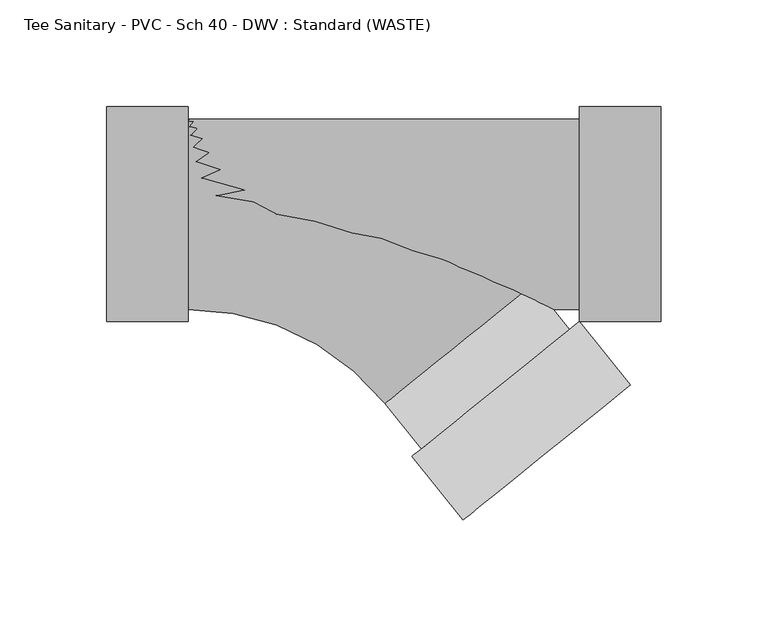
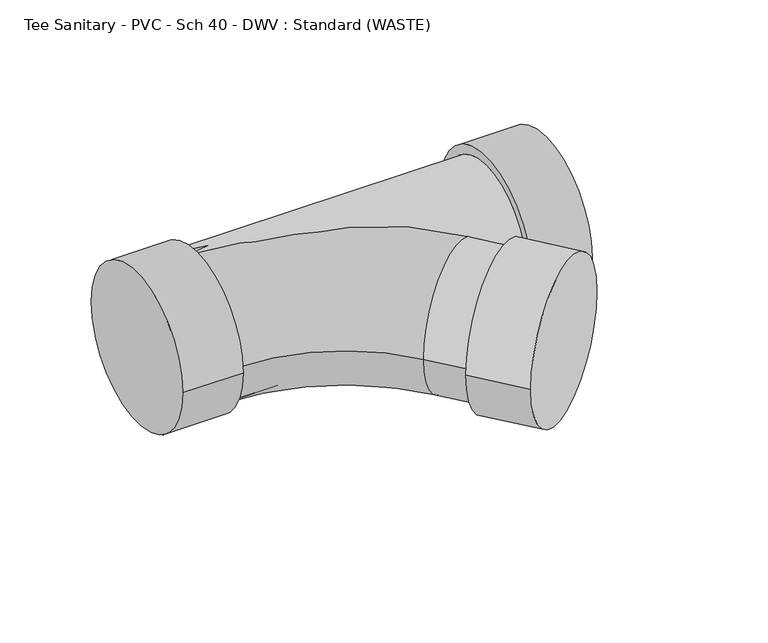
"""IFC4 building model written with IfcOpenShell, lengths in millimetres: pipe fitting geometry, Tee Sanitary - PVC - Sch 40 - DWV : Standard (WASTE)."""

from ifc_helpers import new_model, si_unit, point, frame, origin, place, context, project, spatial, circle_curve, ellipse_curve, trimmed, source, transform, mapped, element, save
from ifc_brep_helpers import plane_surface, cylinder_surface, revolved_surface, advanced_brep


def tee_sanitary_pvc_sch_40_dwv_standard_waste_cb718fee(model_context):
    return source(origin(), model_context, "Body", "AdvancedBrep", [
        advanced_brep(
        [(-77.8002, -44.45, 0.0), (-77.8002, 44.45, 0.0), (14.2132337, -88.4683989, 0.0), (83.4302822, -32.6812123, 0.0), (128.9830945, -79.9310494, 0.0), (50.7085008, -143.0183879, 0.0), (105.0743003, -50.2666, 0.0), (26.7997065, -113.3539385, 0.0), (100.5455277, -53.9166759, 0.0), (31.3284792, -109.7038626, 0.0)],
        [
            (0, 1, circle_curve(frame((-77.8002, 0.0, 0.0), z_axis=(-1.0, 0.0, 0.0), x_axis=(0.0, 1.0, 0.0)), 44.45)),
            (1, 0, circle_curve(frame((-77.8002, 0.0, 0.0), z_axis=(-1.0, 0.0, 0.0), x_axis=(0.0, 1.0, 0.0)), 44.45)),
            (0, 2, circle_curve(frame((-77.8002, -162.6288942, 0.0), z_axis=(0.0, 0.0, -1.0), x_axis=(0.0, 1.0, 0.0)), 118.1788942)),
            (2, 3, circle_curve(frame((48.8217579, -60.5748056, 0.0), z_axis=(-0.627527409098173, 0.778594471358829, 0.0), x_axis=(0.778594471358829, 0.627527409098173, 0.0)), 44.45)),
            (3, 1, circle_curve(frame((-77.8002, -162.6288942, 0.0), z_axis=(0.0, 0.0, 1.0), x_axis=(0.0, 1.0, 0.0)), 207.0788942)),
            (3, 2, circle_curve(frame((48.8217579, -60.5748056, 0.0), z_axis=(-0.627527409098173, 0.778594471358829, 0.0), x_axis=(0.778594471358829, 0.627527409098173, 0.0)), 44.45)),
            (4, 5, circle_curve(frame((89.8457977, -111.4747186, 0.0), z_axis=(0.6275274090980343, -0.7785944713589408, 0.0), x_axis=(-0.7785944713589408, -0.6275274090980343, 0.0)), 50.2666)),
            (5, 4, circle_curve(frame((89.8457977, -111.4747186, 0.0), z_axis=(0.6275274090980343, -0.7785944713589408, 0.0), x_axis=(-0.7785944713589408, -0.6275274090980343, 0.0)), 50.2666)),
            (6, 7, circle_curve(frame((65.9370034, -81.8102693, 0.0), z_axis=(-0.6275274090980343, 0.7785944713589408, 0.0), x_axis=(-0.7785944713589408, -0.6275274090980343, 0.0)), 50.2666)),
            (7, 6, circle_curve(frame((65.9370034, -81.8102693, 0.0), z_axis=(-0.6275274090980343, 0.7785944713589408, 0.0), x_axis=(-0.7785944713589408, -0.6275274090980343, 0.0)), 50.2666)),
            (8, 9, circle_curve(frame((65.9370034, -81.8102693, 0.0), z_axis=(0.6275274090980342, -0.7785944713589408, 0.0), x_axis=(-0.7785944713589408, -0.6275274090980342, 0.0)), 44.45)),
            (9, 8, circle_curve(frame((65.9370034, -81.8102693, 0.0), z_axis=(0.6275274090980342, -0.7785944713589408, 0.0), x_axis=(-0.7785944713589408, -0.6275274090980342, 0.0)), 44.45)),
            (4, 6),
            (7, 5),
            (2, 9),
            (8, 3),
        ],
        [
            plane_surface(frame((-77.8002, 0.0, 0.0), z_axis=(-1.0, 0.0, 0.0), x_axis=(0.0, 0.0, 1.0))),
            revolved_surface(trimmed(ellipse_curve(frame((-77.8002, 0.0, 0.0), z_axis=(-1.0, 0.0, 0.0), x_axis=(0.0, 1.0, 0.0)), 44.45, 44.45), [point((-77.8002, -44.45, 0.0))], [point((-77.8002, 44.45, 0.0))], True, "CARTESIAN"), (-77.8002, -162.6288942, 0.0), (0.0, 0.0, -1.0)),
            revolved_surface(trimmed(ellipse_curve(frame((-77.8002, 0.0, 0.0), z_axis=(-1.0, 0.0, 0.0), x_axis=(0.0, 1.0, 0.0)), 44.45, 44.45), [point((-77.8002, 44.45, 0.0))], [point((-77.8002, -44.45, 0.0))], True, "CARTESIAN"), (-77.8002, -162.6288942, 0.0), (0.0, 0.0, -1.0)),
            plane_surface(frame((89.8457977, -111.4747186, 0.0), z_axis=(0.6275274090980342, -0.7785944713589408, 0.0), x_axis=(0.0, 0.0, 1.0))),
            plane_surface(frame((65.9370034, -81.8102693, 0.0), z_axis=(-0.6275274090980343, 0.7785944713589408, 0.0), x_axis=(0.0, 0.0, 1.0))),
            cylinder_surface(frame((89.8457977, -111.4747186, 0.0), z_axis=(0.6275274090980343, -0.7785944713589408, 0.0), x_axis=(-0.7785944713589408, -0.6275274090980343, 0.0)), 50.2666),
            cylinder_surface(frame((89.8457977, -111.4747186, 0.0), z_axis=(0.6275274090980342, -0.7785944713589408, 0.0), x_axis=(-0.7785944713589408, -0.6275274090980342, 0.0)), 44.45),
        ],
        [
            (0, [[1, 2]]),
            (1, [[-1, 3, 4, 5]]),
            (2, [[-2, -5, 6, -3]]),
            (3, [[7, 8]]),
            (4, [[9, 10], [11, 12]]),
            (5, [[-7, 13, -10, 14]]),
            (5, [[-8, -14, -9, -13]]),
            (6, [[-4, 15, -11, 16]]),
            (6, [[-6, -16, -12, -15]]),
        ],
    ),
        advanced_brep(
        [(128.9830945, -79.9310494, 0.0), (50.7085008, -143.0183879, 0.0), (-77.8002, -44.45, 0.0), (-77.8002, 44.45, 0.0), (14.2132337, -88.4683989, 0.0), (83.4302822, -32.6812123, 0.0), (105.0743003, -50.2666, 0.0), (26.7997065, -113.3539385, 0.0), (100.5455277, -53.9166759, 0.0), (31.3284792, -109.7038626, 0.0)],
        [
            (0, 1, circle_curve(frame((89.8457977, -111.4747186, 0.0), z_axis=(0.627527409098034, -0.778594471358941, 0.0), x_axis=(-0.778594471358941, -0.627527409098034, 0.0)), 50.2666)),
            (1, 0, circle_curve(frame((89.8457977, -111.4747186, 0.0), z_axis=(0.627527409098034, -0.778594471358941, 0.0), x_axis=(-0.778594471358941, -0.627527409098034, 0.0)), 50.2666)),
            (2, 3, circle_curve(frame((-77.8002, 0.0, 0.0), z_axis=(-1.0, 0.0, 0.0), x_axis=(0.0, 1.0, 0.0)), 44.45)),
            (3, 2, circle_curve(frame((-77.8002, 0.0, 0.0), z_axis=(-1.0, 0.0, 0.0), x_axis=(0.0, 1.0, 0.0)), 44.45)),
            (2, 4, circle_curve(frame((-77.8002, -162.6288942, 0.0), z_axis=(0.0, 0.0, -1.0), x_axis=(0.0, 1.0, 0.0)), 118.1788942)),
            (4, 5, circle_curve(frame((48.8217579, -60.5748056, 0.0), z_axis=(-0.627527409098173, 0.778594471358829, 0.0), x_axis=(0.778594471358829, 0.627527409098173, 0.0)), 44.45)),
            (5, 3, circle_curve(frame((-77.8002, -162.6288942, 0.0), z_axis=(0.0, 0.0, 1.0), x_axis=(0.0, 1.0, 0.0)), 207.0788942)),
            (5, 4, circle_curve(frame((48.8217579, -60.5748056, 0.0), z_axis=(-0.627527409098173, 0.778594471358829, 0.0), x_axis=(0.778594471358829, 0.627527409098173, 0.0)), 44.45)),
            (6, 7, circle_curve(frame((65.9370034, -81.8102693, 0.0), z_axis=(-0.627527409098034, 0.778594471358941, 0.0), x_axis=(-0.778594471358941, -0.627527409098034, 0.0)), 50.2666)),
            (7, 6, circle_curve(frame((65.9370034, -81.8102693, 0.0), z_axis=(-0.627527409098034, 0.778594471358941, 0.0), x_axis=(-0.778594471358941, -0.627527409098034, 0.0)), 50.2666)),
            (8, 9, circle_curve(frame((65.9370034, -81.8102693, 0.0), z_axis=(0.6275274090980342, -0.7785944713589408, 0.0), x_axis=(-0.7785944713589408, -0.6275274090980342, 0.0)), 44.45)),
            (9, 8, circle_curve(frame((65.9370034, -81.8102693, 0.0), z_axis=(0.6275274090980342, -0.7785944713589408, 0.0), x_axis=(-0.7785944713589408, -0.6275274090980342, 0.0)), 44.45)),
            (0, 6),
            (7, 1),
            (4, 9),
            (8, 5),
        ],
        [
            plane_surface(frame((89.8457977, -111.4747186, 0.0), z_axis=(0.6275274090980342, -0.7785944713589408, 0.0), x_axis=(0.0, 0.0, 1.0))),
            plane_surface(frame((-77.8002, 0.0, 0.0), z_axis=(-1.0, 0.0, 0.0), x_axis=(0.0, 0.0, 1.0))),
            revolved_surface(trimmed(ellipse_curve(frame((-77.8002, 0.0, 0.0), z_axis=(-1.0, 0.0, 0.0), x_axis=(0.0, 1.0, 0.0)), 44.45, 44.45), [point((-77.8002, -44.45, 0.0))], [point((-77.8002, 44.45, 0.0))], True, "CARTESIAN"), (-77.8002, -162.6288942, 0.0), (0.0, 0.0, -1.0)),
            revolved_surface(trimmed(ellipse_curve(frame((-77.8002, 0.0, 0.0), z_axis=(-1.0, 0.0, 0.0), x_axis=(0.0, 1.0, 0.0)), 44.45, 44.45), [point((-77.8002, 44.45, 0.0))], [point((-77.8002, -44.45, 0.0))], True, "CARTESIAN"), (-77.8002, -162.6288942, 0.0), (0.0, 0.0, -1.0)),
            plane_surface(frame((65.9370034, -81.8102693, 0.0), z_axis=(-0.627527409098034, 0.778594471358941, 0.0), x_axis=(0.0, 0.0, 1.0))),
            cylinder_surface(frame((89.8457977, -111.4747186, 0.0), z_axis=(0.627527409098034, -0.778594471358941, 0.0), x_axis=(-0.778594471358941, -0.627527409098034, 0.0)), 50.2666),
            cylinder_surface(frame((89.8457977, -111.4747186, 0.0), z_axis=(0.6275274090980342, -0.7785944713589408, 0.0), x_axis=(-0.7785944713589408, -0.6275274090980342, 0.0)), 44.45),
        ],
        [
            (0, [[1, 2]]),
            (1, [[3, 4]]),
            (2, [[-3, 5, 6, 7]]),
            (3, [[-4, -7, 8, -5]]),
            (4, [[9, 10], [11, 12]]),
            (5, [[-1, 13, -10, 14]]),
            (5, [[-2, -14, -9, -13]]),
            (6, [[-6, 15, -11, 16]]),
            (6, [[-8, -16, -12, -15]]),
        ],
    ),
        advanced_brep(
        [(-77.8002, -44.45, 0.0), (105.0743003, -44.45, 0.0), (105.0743003, 44.45, 0.0), (-77.8002, 44.45, 0.0), (105.0743003, -50.2666, 0.0), (105.0743003, 50.2666, 0.0), (143.1743003, -50.2666, 0.0), (143.1743003, 50.2666, 0.0), (-115.9002, -50.2666, 0.0), (-115.9002, 50.2666, 0.0), (-77.8002, -50.2666, 0.0), (-77.8002, 50.2666, 0.0)],
        [
            (0, 1),
            (1, 2, circle_curve(frame((105.0743003, 0.0, 0.0), z_axis=(-1.0, 0.0, 0.0), x_axis=(0.0, 1.0, 0.0)), 44.45)),
            (2, 3),
            (3, 0, circle_curve(frame((-77.8002, 0.0, 0.0), z_axis=(1.0, 0.0, 0.0), x_axis=(0.0, 1.0, 0.0)), 44.45)),
            (0, 3, circle_curve(frame((-77.8002, 0.0, 0.0), z_axis=(1.0, 0.0, 0.0), x_axis=(0.0, 1.0, 0.0)), 44.45)),
            (2, 1, circle_curve(frame((105.0743003, 0.0, 0.0), z_axis=(-1.0, 0.0, 0.0), x_axis=(0.0, 1.0, 0.0)), 44.45)),
            (4, 5, circle_curve(frame((105.0743003, 0.0, 0.0), z_axis=(-1.0, 0.0, 0.0), x_axis=(0.0, 1.0, 0.0)), 50.2666)),
            (5, 4, circle_curve(frame((105.0743003, 0.0, 0.0), z_axis=(-1.0, 0.0, 0.0), x_axis=(0.0, 1.0, 0.0)), 50.2666)),
            (6, 7, circle_curve(frame((143.1743003, 0.0, 0.0), z_axis=(1.0, 0.0, 0.0), x_axis=(0.0, 1.0, 0.0)), 50.2666)),
            (7, 6, circle_curve(frame((143.1743003, 0.0, 0.0), z_axis=(1.0, 0.0, 0.0), x_axis=(0.0, 1.0, 0.0)), 50.2666)),
            (4, 6),
            (7, 5),
            (8, 9, circle_curve(frame((-115.9002, 0.0, 0.0), z_axis=(-1.0, 0.0, 0.0), x_axis=(0.0, 1.0, 0.0)), 50.2666)),
            (9, 8, circle_curve(frame((-115.9002, 0.0, 0.0), z_axis=(-1.0, 0.0, 0.0), x_axis=(0.0, 1.0, 0.0)), 50.2666)),
            (10, 11, circle_curve(frame((-77.8002, 0.0, 0.0), z_axis=(1.0, 0.0, 0.0), x_axis=(0.0, 1.0, 0.0)), 50.2666)),
            (11, 10, circle_curve(frame((-77.8002, 0.0, 0.0), z_axis=(1.0, 0.0, 0.0), x_axis=(0.0, 1.0, 0.0)), 50.2666)),
            (8, 10),
            (11, 9),
        ],
        [
            cylinder_surface(frame((-77.8002, 0.0, 0.0), z_axis=(-1.0, 0.0, 0.0), x_axis=(0.0, 1.0, 0.0)), 44.45),
            plane_surface(frame((105.0743003, 0.0, 0.0), z_axis=(-1.0, 0.0, 0.0), x_axis=(0.0, 0.0, 1.0))),
            plane_surface(frame((143.1743003, 0.0, 0.0), z_axis=(1.0, 0.0, 0.0), x_axis=(0.0, 0.0, 1.0))),
            cylinder_surface(frame((105.0743003, 0.0, 0.0), z_axis=(-1.0, 0.0, 0.0), x_axis=(0.0, 1.0, 0.0)), 50.2666),
            plane_surface(frame((-115.9002, 0.0, 0.0), z_axis=(-1.0, 0.0, 0.0), x_axis=(0.0, 0.0, 1.0))),
            plane_surface(frame((-77.8002, 0.0, 0.0), z_axis=(1.0, 0.0, 0.0), x_axis=(0.0, 0.0, 1.0))),
            cylinder_surface(frame((-115.9002, 0.0, 0.0), z_axis=(-1.0, 0.0, 0.0), x_axis=(0.0, 1.0, 0.0)), 50.2666),
        ],
        [
            (0, [[1, 2, 3, 4]]),
            (0, [[-1, 5, -3, 6]]),
            (1, [[7, 8], [-2, -6]]),
            (2, [[9, 10]]),
            (3, [[-7, 11, -10, 12]]),
            (3, [[-8, -12, -9, -11]]),
            (4, [[13, 14]]),
            (5, [[15, 16], [-4, -5]]),
            (6, [[-13, 17, -16, 18]]),
            (6, [[-14, -18, -15, -17]]),
        ],
    ),
        advanced_brep(
        [(-115.9002, -50.2666, 0.0), (-115.9002, 50.2666, 0.0), (-77.8002, -50.2666, 0.0), (-77.8002, 50.2666, 0.0), (-77.8002, -44.45, 0.0), (-77.8002, 44.45, 0.0), (105.0743003, -44.45, 0.0), (105.0743003, 44.45, 0.0), (143.1743003, 50.2666, 0.0), (143.1743003, -50.2666, 0.0), (105.0743003, 50.2666, 0.0), (105.0743003, -50.2666, 0.0)],
        [
            (0, 1, circle_curve(frame((-115.9002, 0.0, 0.0), z_axis=(-1.0, 0.0, 0.0), x_axis=(0.0, 1.0, 0.0)), 50.2666)),
            (1, 0, circle_curve(frame((-115.9002, 0.0, 0.0), z_axis=(-1.0, 0.0, 0.0), x_axis=(0.0, 1.0, 0.0)), 50.2666)),
            (2, 3, circle_curve(frame((-77.8002, 0.0, 0.0), z_axis=(1.0, 0.0, 0.0), x_axis=(0.0, 1.0, 0.0)), 50.2666)),
            (3, 2, circle_curve(frame((-77.8002, 0.0, 0.0), z_axis=(1.0, 0.0, 0.0), x_axis=(0.0, 1.0, 0.0)), 50.2666)),
            (4, 5, circle_curve(frame((-77.8002, 0.0, 0.0), z_axis=(-1.0, 0.0, 0.0), x_axis=(0.0, 1.0, 0.0)), 44.45)),
            (5, 4, circle_curve(frame((-77.8002, 0.0, 0.0), z_axis=(-1.0, 0.0, 0.0), x_axis=(0.0, 1.0, 0.0)), 44.45)),
            (0, 2),
            (3, 1),
            (4, 6),
            (6, 7, circle_curve(frame((105.0743003, 0.0, 0.0), z_axis=(-1.0, 0.0, 0.0), x_axis=(0.0, 1.0, 0.0)), 44.45)),
            (7, 5),
            (7, 6, circle_curve(frame((105.0743003, 0.0, 0.0), z_axis=(-1.0, 0.0, 0.0), x_axis=(0.0, 1.0, 0.0)), 44.45)),
            (8, 9, circle_curve(frame((143.1743003, 0.0, 0.0), z_axis=(1.0, 0.0, 0.0), x_axis=(0.0, -1.0, 0.0)), 50.2666)),
            (9, 8, circle_curve(frame((143.1743003, 0.0, 0.0), z_axis=(1.0, 0.0, 0.0), x_axis=(0.0, -1.0, 0.0)), 50.2666)),
            (10, 11, circle_curve(frame((105.0743003, 0.0, 0.0), z_axis=(-1.0, 0.0, 0.0), x_axis=(0.0, -1.0, 0.0)), 50.2666)),
            (11, 10, circle_curve(frame((105.0743003, 0.0, 0.0), z_axis=(-1.0, 0.0, 0.0), x_axis=(0.0, -1.0, 0.0)), 50.2666)),
            (8, 10),
            (11, 9),
        ],
        [
            plane_surface(frame((-115.9002, 0.0, 0.0), z_axis=(-1.0, 0.0, 0.0), x_axis=(0.0, 0.0, 1.0))),
            plane_surface(frame((-77.8002, 0.0, 0.0), z_axis=(1.0, 0.0, 0.0), x_axis=(0.0, 0.0, 1.0))),
            cylinder_surface(frame((-115.9002, 0.0, 0.0), z_axis=(-1.0, 0.0, 0.0), x_axis=(0.0, 1.0, 0.0)), 50.2666),
            cylinder_surface(frame((-77.8002, 0.0, 0.0), z_axis=(-1.0, 0.0, 0.0), x_axis=(0.0, 1.0, 0.0)), 44.45),
            plane_surface(frame((143.1743003, 0.0, 0.0), z_axis=(1.0, 0.0, 0.0), x_axis=(0.0, 0.0, 1.0))),
            plane_surface(frame((105.0743003, 0.0, 0.0), z_axis=(-1.0, 0.0, 0.0), x_axis=(0.0, 0.0, 1.0))),
            cylinder_surface(frame((143.1743003, 0.0, 0.0), z_axis=(1.0, 0.0, 0.0), x_axis=(0.0, -1.0, 0.0)), 50.2666),
        ],
        [
            (0, [[1, 2]]),
            (1, [[3, 4], [5, 6]]),
            (2, [[-1, 7, -4, 8]]),
            (2, [[-2, -8, -3, -7]]),
            (3, [[9, 10, 11, -5]]),
            (3, [[-9, -6, -11, 12]]),
            (4, [[13, 14]]),
            (5, [[15, 16], [-10, -12]]),
            (6, [[-13, 17, -16, 18]]),
            (6, [[-14, -18, -15, -17]]),
        ],
    ),
    ])


if __name__ == "__main__":
    model = new_model("IFC4")
    model_context = context("Model", 3, world=origin())
    ifc_project = project(units=[si_unit("LENGTHUNIT", "METRE", prefix="MILLI")], contexts=[model_context])
    site = spatial("IfcSite", under=ifc_project)
    building = spatial("IfcBuilding", under=site)
    placement = place(None, origin())
    tee_sanitary_pvc_sch_40_dwv_standard_waste_shape = tee_sanitary_pvc_sch_40_dwv_standard_waste_cb718fee(model_context)
    element("IfcPipeFitting", 1, ObjectType="Tee Sanitary - PVC - Sch 40 - DWV : Standard (WASTE)", at=placement, inside=building, context=model_context, shape_type="MappedRepresentation", body=[
        mapped(tee_sanitary_pvc_sch_40_dwv_standard_waste_shape, transform((0.0, 0.0, 0.0), x_axis=(1.0, 0.0, 0.0), y_axis=(0.0, 1.0, 0.0), z_axis=(0.0, 0.0, 1.0))),
    ])
    save(model, "model.ifc")
